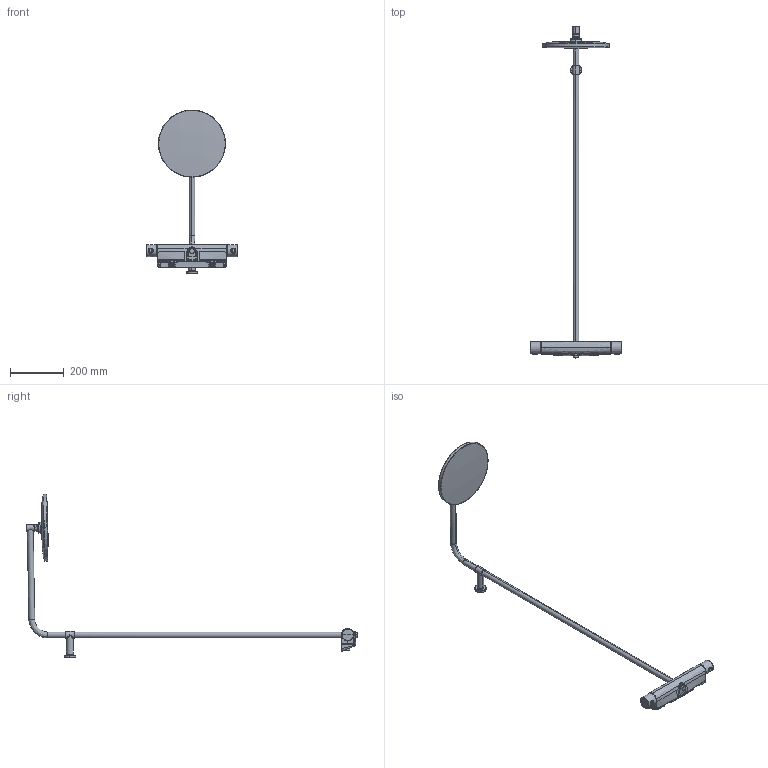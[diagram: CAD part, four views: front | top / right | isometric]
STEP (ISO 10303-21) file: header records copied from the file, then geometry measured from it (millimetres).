
FILE_DESCRIPTION (( 'STEP AP203' ), '1' );
FILE_NAME ('7156N(2023)+7156N-33(2023).STEP', '2023-02-09T07:26:10', ( '' ), ( '' ), 'SwSTEP 2.0', 'SolidWorks 2016', '' );
FILE_SCHEMA (( 'CONFIG_CONTROL_DESIGN' ));
Length unit declared in the file: millimetre
Products named in the file (1): 7156N(2023)+7156N-33(2023)
Bounding box: 342.65 x 1238.41 x 611.02 mm (x, y, z)
Volume: 2496967.7 mm3; surface area: 344634.2 mm2
Topology: 1 solids, 1 shells, 727 faces, 1792 edges, 1072 vertices
Faces by surface type: bspline 404, cylinder 131, plane 85, cone 81, torus 18, sphere 8
Entity records: 46093 total; most frequent: CARTESIAN_POINT 32036, ORIENTED_EDGE 3542, DIRECTION 2033, EDGE_CURVE 1771, VERTEX_POINT 1072, AXIS2_PLACEMENT_3D 859, B_SPLINE_CURVE_WITH_KNOTS 841, EDGE_LOOP 757
